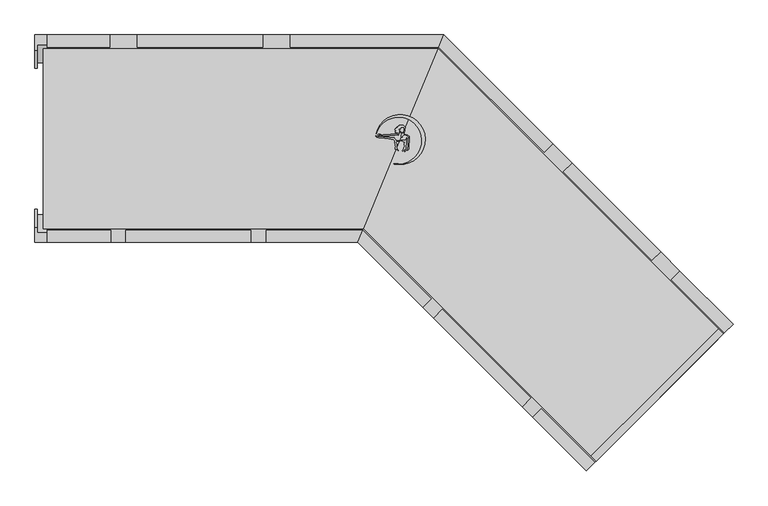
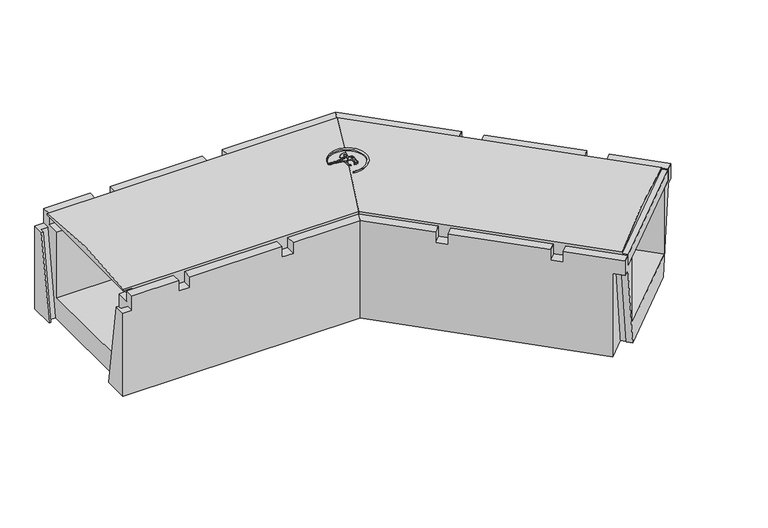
"""IFC4 building model written with IfcOpenShell, lengths in millimetres: cable carrier fitting geometry, Evotray type 2 horizontal bend : Evotray type 2 horizontal bend."""

from ifc_helpers import new_model, si_unit, point, frame, frame_2d, origin, place, context, project, spatial, polyline, circle_curve, ellipse_curve, trimmed, segment, composite_curve, outline, extrude, faceted_brep, source, transform, mapped, element, save
from ifc_brep_helpers import plane_surface, cylinder_surface, advanced_brep


def cable_carrier_fitting_f17cfeea(model_context):
    return source(origin(), model_context, "Body", "SolidModel", [
        extrude(outline(composite_curve([segment(polyline([(105.7066847, 7.5339815), (107.1323757, 6.7108584), (106.4234444, 6.3015567), (103.8585146, 6.3015567), (101.3990213, 3.8420634), (101.3990213, 2.2583954), (100.3415073, 1.9750354), (100.0101402, 3.2117144), (100.3323616, 4.414261), (100.3323616, 6.6410761), (101.7989023, 8.1076167), (101.3990213, 8.8002309), (100.3323616, 9.4160672), (99.4740897, 9.9115907), (98.4809661, 10.9047143), (98.4809661, 12.1547711), (99.2687603, 11.6999379), (100.3323616, 10.6363367), (101.3990213, 10.0205004), (103.7117859, 10.0205004), (104.3436846, 10.6523991), (104.3436846, 12.2608037), (104.7495416, 12.9637687), (104.9891116, 13.8578561), (104.9891116, 17.953291), (104.3436846, 18.598718), (100.3323616, 18.9496633), (99.5841975, 18.5177106), (99.1523489, 17.769727), (98.9299555, 16.9397435), (98.6572391, 15.393092), (98.1012174, 15.9491137), (97.5355616, 16.5147695), (96.5750267, 16.5147695), (96.1005873, 15.6930164), (96.1005873, 14.868111), (96.5026344, 14.1717449), (97.2303291, 13.4440503), (96.8336897, 11.9637721), (96.4961898, 10.7042051), (96.7989972, 8.9868987), (95.9982041, 8.8456973), (94.2677588, 9.3093687), (93.0210496, 9.8907188), (92.2677924, 10.2419684), (90.6683438, 9.9599424), (91.1359022, 10.7697774), (92.7927232, 11.3728109)]), True, "CONTINUOUS"), segment(trimmed(circle_curve(frame_2d((92.2265957, 11.1008716)), 0.6280537), [point((92.7927232, 11.3728109))], [point((92.0710135, 11.7093497))], True, "CARTESIAN"), True, "CONTINUOUS"), segment(polyline([(92.0710135, 11.7093497), (90.1239984, 11.7093497), (90.6821765, 12.2675278), (91.5329563, 12.5771863), (92.3513958, 12.875074)]), True, "CONTINUOUS"), segment(trimmed(circle_curve(frame_2d((91.6130709, 12.875074)), 0.7383249), [point((92.3513958, 12.875074))], [point((91.6130709, 13.6133989))], True, "CARTESIAN"), True, "CONTINUOUS"), segment(polyline([(91.6130709, 13.6133989), (89.9053233, 13.6133989), (89.5138017, 14.2915342), (91.3323938, 14.612201), (92.6287318, 15.0840295), (92.0079791, 15.7047821), (90.0447596, 15.7047821), (90.597342, 16.2573646), (91.6271747, 16.8519388), (92.3018991, 17.5266631), (93.0247164, 17.9439819), (93.9997284, 18.5069053)]), True, "CONTINUOUS"), segment(trimmed(circle_curve(frame_2d((93.788743, 18.8723428)), 0.4219708), [point((93.9997284, 18.5069053))], [point((93.5777576, 19.2377802))], True, "CARTESIAN"), True, "CONTINUOUS"), segment(polyline([(93.5777576, 19.2377802), (94.1951543, 19.8551768), (95.4978242, 20.3293099), (96.4928808, 20.9038061), (97.6244174, 21.1033266), (97.2705916, 22.0754549), (102.2705916, 22.0754549), (103.2847654, 21.6025379), (104.4066204, 21.3019378), (105.4210665, 20.716247), (106.529743, 19.6075706), (106.529743, 17.0415553), (106.0408258, 16.1947259), (106.0408258, 13.46269), (105.5517909, 12.4139512), (105.144989, 11.7093497), (105.144989, 9.8605854), (104.3436846, 9.3979521), (103.5104061, 9.2510226)]), True, "CONTINUOUS"), segment(trimmed(circle_curve(frame_2d((104.5633576, 8.9688851)), 1.0900956), [point((103.5104061, 9.2510226))], [point((104.2812201, 7.9159336))], True, "CARTESIAN"), True, "CONTINUOUS"), segment(polyline([(104.2812201, 7.9159336), (105.7066847, 7.5339815)]), True, "CONTINUOUS")], self_intersect=False)), frame((0.0, 0.0, 223.75), z_axis=(0.0, 0.0, 1.0), x_axis=(1.0, 0.0, 0.0)), (0.0, 0.0, 1.0), 22.5),
        extrude(outline(polyline([(110.2633939, 4.6789788), (108.34075, 5.7890178), (109.5299901, 6.1076737), (110.9048454, 5.6072673), (113.0309946, 4.3797345), (113.442644, 2.8434379), (113.442644, 0.0702487), (113.0242632, -2.3025073), (112.698126, -11.6418533), (112.698126, -14.4967502), (112.1384781, -17.6706715), (110.979454, -18.8296956), (110.0819654, -18.8296956), (110.7568395, -16.975494), (111.0657951, -15.2233198), (111.5802524, -12.3056877), (111.5802524, -1.066223), (112.021887, 1.4384114), (111.4794102, 3.4629626), (110.2633939, 4.6789788)])), frame((0.0, 0.0, 223.75), z_axis=(0.0, 0.0, 1.0), x_axis=(1.0, 0.0, 0.0)), (0.0, 0.0, 1.0), 22.5),
        extrude(outline(composite_curve([segment(polyline([(102.835145, -2.929042), (104.8173464, -2.929042), (106.2856108, -2.6701473), (107.5908928, -1.3648653), (108.7710016, 1.1658863), (109.2519536, -0.1555184), (108.6292459, -1.4909195), (107.9586384, -2.929042), (107.9586384, -8.8872378), (107.5302593, -11.3166965), (107.5302593, -19.7978385), (106.0816006, -21.2464971), (105.5088634, -20.6737599), (106.1875834, -18.9313898), (106.4457288, -17.4673747)]), True, "CONTINUOUS"), segment(trimmed(circle_curve(frame_2d((106.0310807, -17.4673747)), 0.414648), [point((106.4457288, -17.4673747))], [point((105.6164327, -17.4673747))], True, "CARTESIAN"), True, "CONTINUOUS"), segment(polyline([(105.6164327, -17.4673747), (104.8507439, -18.2330635), (103.5838974, -19.7428323), (102.9283884, -20.3983414), (102.1360672, -20.0288759), (104.3002871, -16.820288), (104.6061967, -15.0853881), (105.4482546, -13.2795892), (105.7054621, -11.8208929), (104.9169534, -10.4551557), (104.9169534, -7.6886085), (106.2401018, -5.8190518)]), True, "CONTINUOUS"), segment(trimmed(circle_curve(frame_2d((105.9029968, -5.5804712)), 0.4129897), [point((106.2401018, -5.8190518))], [point((105.6644162, -5.2433662))], True, "CARTESIAN"), True, "CONTINUOUS"), segment(polyline([(105.6644162, -5.2433662), (103.6606012, -4.8900395), (102.2167047, -4.2167395), (100.3967041, -3.3680593), (100.3967041, -2.499079), (102.835145, -2.929042)]), True, "CONTINUOUS")], self_intersect=False)), frame((0.0, 0.0, 223.75), z_axis=(0.0, 0.0, 1.0), x_axis=(1.0, 0.0, 0.0)), (0.0, 0.0, 1.0), 22.5),
        extrude(outline(composite_curve([segment(polyline([(60.4235491, 3.8801527), (62.159223, 3.0707947), (66.3456968, 3.0707947), (67.4164179, 3.3576935), (68.7429556, 3.3576935), (70.4640644, 3.0707947), (72.4703865, 2.5332023), (73.6235746, 2.2242065), (79.3154812, 2.2242065), (81.9319771, 1.7880518), (83.2595398, 1.4323324), (88.8737821, 1.4323324)]), True, "CONTINUOUS"), segment(trimmed(circle_curve(frame_2d((97.7273482, 4.337939)), 9.3181642), [point((88.8737821, 1.4323324))], [point((92.2280498, -3.184421))], True, "CARTESIAN"), True, "CONTINUOUS"), segment(polyline([(92.2280498, -3.184421), (95.2798347, -3.184421), (97.3144132, -3.0064185), (98.4534172, -2.4752922), (98.1958972, -3.4363696), (97.251803, -3.9814427), (96.2931161, -4.3303762), (93.058411, -4.2174178), (91.8697164, -4.6500673), (91.4607221, -5.5271586), (91.5358027, -6.3853337), (92.0146868, -7.2147854), (92.7352923, -7.9353909), (92.7352923, -9.6916034), (92.3699921, -10.6952577), (92.5142587, -12.3442325), (93.019351, -14.2292627), (93.1674701, -15.9222719), (95.5388052, -18.6501808), (95.3301282, -19.8336466), (92.7352923, -17.2388107), (91.7724607, -17.4968007), (90.3692845, -17.2493828), (90.6448449, -16.4922869), (90.6448449, -14.2182314), (90.8204487, -13.2223327), (90.6448449, -11.2151718), (90.2691825, -10.1830477), (90.2691825, -8.3578648), (89.8228468, -7.4006948), (89.8228468, -5.0229453), (89.5744065, -4.0957537), (89.1224362, -3.3129181), (88.6737244, -2.5357266), (88.059282, -1.9212842), (87.6254308, -0.9908871), (84.0244926, -0.8651396), (81.6803406, -0.4743831), (79.6477473, 0.0702487), (76.3061277, 0.4214671), (74.2265146, 0.4214671), (72.88428, 0.7811177), (71.360685, 1.1893638), (70.0174317, 1.8157331), (69.0230429, 1.8157331), (66.3716026, 1.8157331), (65.2593585, 1.5177082), (63.3960765, 1.713547), (61.9070017, 1.9617671), (60.2336941, 2.7420433), (59.2577678, 3.7179696), (58.6186847, 4.3570527), (58.6186847, 5.1439324), (60.4235491, 3.8801527)]), True, "CONTINUOUS")], self_intersect=False)), frame((0.0, 0.0, 223.75), z_axis=(0.0, 0.0, 1.0), x_axis=(1.0, 0.0, 0.0)), (0.0, 0.0, 1.0), 22.5),
        extrude(outline(composite_curve([segment(polyline([(62.9257817, 5.4241248), (63.949096, 4.833314), (62.2214356, 5.3529849), (61.8912891, 6.2705486), (62.7296135, 7.108873), (65.602432, 7.108873), (66.586869, 6.7111347), (67.6773578, 6.2705486), (68.4755514, 5.8097113), (69.7357815, 5.8097113), (70.5568066, 6.1051225), (71.4420588, 6.6162232), (77.8557638, 6.6162232), (78.7113384, 6.2705486), (79.7817404, 6.2705486), (80.7424606, 6.6162232), (81.9216173, 6.6162232), (82.6399563, 7.0309564), (88.0526116, 7.0309564), (88.8128922, 7.3045113), (90.0550502, 7.3045113), (90.6308188, 7.8802798), (92.5883822, 7.8802798), (93.8763833, 7.3598936), (94.8882997, 6.7756634), (95.6927408, 6.4506481)]), True, "CONTINUOUS"), segment(trimmed(circle_curve(frame_2d((95.2854084, 6.2860752)), 0.4393221), [point((95.6927408, 6.4506481))], [point((95.1208355, 5.8787428))], False, "CARTESIAN"), True, "CONTINUOUS"), segment(polyline([(95.1208355, 5.8787428), (94.1051068, 6.2891238), (92.793449, 6.2891238), (91.523019, 6.5131349), (90.7109946, 6.2209622), (89.5680207, 5.8097113), (86.2238227, 5.8097113), (85.4327494, 5.3529849), (81.8654291, 5.3529849), (80.9825668, 4.8432641), (70.9825668, 4.8432641), (68.3719027, 4.6148606), (64.683375, 6.1051225), (62.5326075, 6.1051225), (62.9257817, 5.4241248)]), True, "CONTINUOUS")], self_intersect=False)), frame((0.0, 0.0, 223.75), z_axis=(0.0, 0.0, 1.0), x_axis=(1.0, 0.0, 0.0)), (0.0, 0.0, 1.0), 22.5),
        extrude(outline(composite_curve([segment(trimmed(circle_curve(frame_2d((95.5060418, -3.2457098)), 38.3616107), [point((88.098205, -40.8852785))], [point((58.7945065, 7.8842657))], True, "CARTESIAN"), True, "CONTINUOUS"), segment(trimmed(circle_curve(frame_2d((98.6354425, -1.3653761)), 40.900563), [point((58.7945065, 7.8842657))], [point((88.098205, -40.8852785))], False, "CARTESIAN"), True, "CONTINUOUS")], self_intersect=False)), frame((0.0, 0.0, 223.75), z_axis=(0.0, 0.0, 1.0), x_axis=(1.0, 0.0, 0.0)), (0.0, 0.0, 1.0), 22.5),
        advanced_brep(
        [(419.2551404, -528.2679464, 205.0), (38.4871939, -147.5, 205.0), (160.6801948, 147.5, 205.0), (627.8516408, -319.671446, 205.0), (627.8516408, -319.671446, 230.0), (419.2551404, -528.2679464, 230.0), (160.6801948, 147.5, 234.0), (619.3663594, -311.1861646, 234.0), (619.3663594, -311.1861646, 230.0), (38.4871939, -147.5, 234.0), (410.769859, -519.782665, 230.0), (410.769859, -519.782665, 234.0)],
        [
            (0, 1),
            (1, 2),
            (2, 3),
            (3, 0),
            (3, 4),
            (4, 5),
            (5, 0),
            (2, 6),
            (6, 7),
            (7, 8),
            (8, 4),
            (1, 9),
            (9, 6, ellipse_curve(frame((99.5836944, 0.0, -671.2716938), z_axis=(-0.9238795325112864, 0.3826834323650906, 0.0), x_axis=(-0.3826834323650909, -0.9238795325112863, 0.0)), 992.7803042, 917.2094034)),
            (5, 10),
            (10, 11),
            (11, 9),
            (8, 10),
            (7, 11, circle_curve(frame((515.0681092, -415.4844148, -671.2716938), z_axis=(0.7071067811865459, -0.7071067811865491, 0.0), x_axis=(-0.7071067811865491, -0.7071067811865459, 0.0)), 917.2094034)),
        ],
        [
            plane_surface(frame((580.1219331, -367.4011537, 205.0), z_axis=(0.0, 0.0, -1.0), x_axis=(-0.707106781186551, -0.7071067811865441, 0.0))),
            plane_surface(frame((419.2551404, -528.2679464, 246.0), z_axis=(0.7071067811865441, -0.707106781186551, 0.0), x_axis=(0.0, 0.0, -1.0))),
            plane_surface(frame((627.8516408, -319.671446, 246.0), z_axis=(0.7071067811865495, 0.7071067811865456, 0.0), x_axis=(0.0, 0.0, -1.0))),
            plane_surface(frame((160.6801948, 147.5, 246.0), z_axis=(-0.9238795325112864, 0.3826834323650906, 0.0), x_axis=(0.0, 0.0, -1.0))),
            plane_surface(frame((38.4871939, -147.5, 246.0), z_axis=(-0.7071067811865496, -0.7071067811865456, 0.0), x_axis=(0.0, 0.0, -1.0))),
            plane_surface(frame((460.196623, -470.355901, 230.0), z_axis=(0.0, 0.0, 1.0), x_axis=(0.7071067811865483, 0.7071067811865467, 0.0))),
            plane_surface(frame((619.3663594, -311.1861646, 246.0), z_axis=(0.7071067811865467, -0.7071067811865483, 0.0), x_axis=(0.0, 0.0, -1.0))),
            cylinder_surface(frame((99.5836944, 0.0, -671.2716938), z_axis=(0.7071067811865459, -0.7071067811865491, 0.0), x_axis=(-0.7071067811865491, -0.7071067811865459, 0.0)), 917.2094034),
        ],
        [
            (0, [[1, 2, 3, 4]]),
            (1, [[-4, 5, 6, 7]]),
            (2, [[-3, 8, 9, 10, 11, -5]]),
            (3, [[-2, 12, 13, -8]]),
            (4, [[-1, -7, 14, 15, 16, -12]]),
            (5, [[17, -14, -6, -11]]),
            (6, [[-17, -10, 18, -15]]),
            (7, [[-9, -13, -16, -18]]),
        ],
    ),
        advanced_brep(
        [(160.6801948, 147.5, 205.0), (38.4871939, -147.5, 205.0), (-466.0, -147.5, 205.0), (-466.0, 147.5, 205.0), (38.4871939, -147.5, 230.0), (38.4871939, -147.5, 234.0), (-486.0, -147.5, 234.0), (-486.0, -147.5, 230.0), (-466.0, -147.5, 230.0), (160.6801948, 147.5, 230.0), (160.6801948, 147.5, 234.0), (-466.0, 147.5, 230.0), (-486.0, 147.5, 230.0), (-486.0, 147.5, 234.0)],
        [
            (0, 1),
            (1, 2),
            (2, 3),
            (3, 0),
            (1, 4),
            (4, 5),
            (5, 6),
            (6, 7),
            (7, 8),
            (8, 2),
            (0, 9),
            (9, 10),
            (10, 5, ellipse_curve(frame((99.5836944, 0.0, -671.2716938), z_axis=(0.9238795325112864, -0.38268343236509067, 0.0), x_axis=(0.38268343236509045, 0.9238795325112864, 0.0)), 992.7803042, 917.2094034)),
            (3, 11),
            (11, 12),
            (12, 13),
            (13, 10),
            (12, 7),
            (6, 13, circle_curve(frame((-486.0, 0.0, -671.2716938), z_axis=(-1.0, 0.0, 0.0), x_axis=(0.0, -1.0, 0.0)), 917.2094034)),
            (11, 8),
        ],
        [
            plane_surface(frame((-77.5, -147.5, 205.0), z_axis=(0.0, 0.0, -1.0), x_axis=(-1.0, 0.0, 0.0))),
            plane_surface(frame((-486.0, -147.5, 246.0), z_axis=(0.0, -1.0, 0.0), x_axis=(0.0, 0.0, -1.0))),
            plane_surface(frame((38.4871939, -147.5, 246.0), z_axis=(0.9238795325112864, -0.38268343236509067, 0.0), x_axis=(0.0, 0.0, -1.0))),
            plane_surface(frame((160.6801948, 147.5, 246.0), z_axis=(0.0, 1.0, 0.0), x_axis=(0.0, 0.0, -1.0))),
            plane_surface(frame((-486.0, 147.5, 246.0), z_axis=(-1.0, 0.0, 0.0), x_axis=(0.0, 0.0, -1.0))),
            plane_surface(frame((-486.0, 147.5, 230.0), z_axis=(0.0, 0.0, -1.0), x_axis=(-1.0, 0.0, 0.0))),
            plane_surface(frame((-466.0, -147.5, 230.0), z_axis=(-1.0, 0.0, 0.0), x_axis=(0.0, 0.0, -1.0))),
            cylinder_surface(frame((-486.0, 0.0, -671.2716938), z_axis=(1.0, 0.0, 0.0), x_axis=(0.0, -1.0, 0.0)), 917.2094034),
        ],
        [
            (0, [[1, 2, 3, 4]]),
            (1, [[5, 6, 7, 8, 9, 10, -2]]),
            (2, [[-1, 11, 12, 13, -6, -5]]),
            (3, [[-11, -4, 14, 15, 16, 17, -12]]),
            (4, [[18, -8, 19, -16]]),
            (5, [[20, -9, -18, -15]]),
            (6, [[-20, -14, -3, -10]]),
            (7, [[-7, -13, -17, -19]]),
        ],
    ),
        faceted_brep([(37.45166, -150.0, 230.0), (29.1673888, -170.0, 230.0), (135.3517677, -276.1843789, 230.0), (149.4939033, -262.0422433, 230.0), (170.0, 170.0, 230.0), (161.7157288, 150.0, 230.0), (334.0487732, -22.3330445, 230.0), (348.1909089, -8.1909089, 230.0), (629.6194078, -317.903679, 230.0), (643.7615434, -303.7615434, 230.0), (556.7874093, -216.7874093, 230.0), (542.6452737, -230.9295449, 230.0), (403.3452378, -544.177849, 230.0), (417.4873734, -530.0357134, 230.0), (329.8061325, -442.3544725, 230.0), (315.6639969, -456.4966081, 230.0), (524.9676042, -184.9676042, 230.0), (380.010714, -40.010714, 230.0), (365.8685784, -54.1528496, 230.0), (510.8254685, -199.1097398, 230.0), (153.0294373, -293.8620485, 230.0), (297.9863274, -438.8189386, 230.0), (312.128463, -424.676803, 230.0), (167.1715729, -279.7199128, 230.0), (29.1673888, -170.0, 0.0), (170.0, 170.0, 0.0), (626.0838739, -286.0838739, 0.0), (585.7787873, -326.3889604, 0.0), (594.2640687, -334.8742418, 0.0), (595.961125, -333.1771855, 0.0), (605.1535131, -342.3695736, 0.0), (441.953268, -505.5698187, 0.0), (432.7608799, -496.3774306, 0.0), (434.4579362, -494.6803743, 0.0), (425.9726548, -486.1950929, 0.0), (385.6675683, -526.5001795, 0.0), (348.1909089, -8.1909089, 205.0), (380.010714, -40.010714, 205.0), (524.9676042, -184.9676042, 205.0), (556.7874093, -216.7874093, 205.0), (643.7615434, -303.7615434, 196.0), (626.0838739, -286.0838739, 196.0), (37.45166, -150.0, 205.0), (49.8780669, -120.0, 205.0), (49.8780669, -120.0, 50.0), (149.2893219, 120.0, 50.0), (149.2893219, 120.0, 205.0), (161.7157288, 150.0, 205.0), (385.6675683, -526.5001795, 196.0), (403.3452378, -544.177849, 196.0), (315.6639969, -456.4966081, 205.0), (297.9863274, -438.8189386, 205.0), (153.0294373, -293.8620485, 205.0), (135.3517677, -276.1843789, 205.0), (417.4873734, -530.0357134, 196.0), (629.6194078, -317.903679, 196.0), (629.6194078, -317.903679, 205.0), (608.4062043, -339.1168825, 205.0), (608.4062043, -339.1168825, 50.0), (438.7005769, -508.8225099, 50.0), (438.7005769, -508.8225099, 205.0), (417.4873734, -530.0357134, 205.0), (408.2949853, -520.8433252, 196.0), (401.5067602, -510.6609876, 196.0), (409.9920415, -519.1462689, 196.0), (620.4270196, -308.7112909, 196.0), (618.7299633, -310.4083471, 196.0), (610.244682, -301.9230658, 196.0), (149.4939033, -262.0422433, 205.0), (167.1715729, -279.7199128, 205.0), (312.128463, -424.676803, 205.0), (329.8061325, -442.3544725, 205.0), (542.6452737, -230.9295449, 205.0), (510.8254685, -199.1097398, 205.0), (365.8685784, -54.1528496, 205.0), (334.0487732, -22.3330445, 205.0)], [[[0, 1, 2, 3]], [[4, 5, 6, 7]], [[8, 9, 10, 11]], [[12, 13, 14, 15]], [[16, 17, 18, 19]], [[20, 21, 22, 23]], [[24, 25, 26, 27, 28, 29, 30, 31, 32, 33, 34, 35]], [[25, 4, 7, 36, 37, 17, 16, 38, 39, 10, 9, 40, 41, 26]], [[25, 24, 1, 0, 42, 43, 44, 45, 46, 47, 5, 4]], [[1, 24, 35, 48, 49, 12, 15, 50, 51, 21, 20, 52, 53, 2]], [[12, 49, 54, 31, 30, 55, 40, 9, 8, 56, 57, 58, 59, 60, 61, 13]], [[62, 54, 49, 48, 63, 64]], [[54, 62, 32, 31]], [[55, 65, 66, 67, 41, 40]], [[65, 55, 30, 29]], [[64, 33, 32, 62]], [[64, 63, 34, 33]], [[63, 48, 35, 34]], [[28, 66, 65, 29]], [[67, 66, 28, 27]], [[41, 67, 27, 26]], [[43, 42, 68, 53, 52, 69, 70, 51, 50, 71, 61, 60]], [[47, 46, 57, 56, 72, 39, 38, 73, 74, 37, 36, 75]], [[19, 18, 74, 73]], [[5, 47, 75, 6]], [[56, 8, 11, 72]], [[23, 22, 70, 69]], [[42, 0, 3, 68]], [[13, 61, 71, 14]], [[58, 45, 44, 59]], [[45, 58, 57, 46]], [[59, 44, 43, 60]], [[51, 70, 22, 21]], [[71, 50, 15, 14]], [[75, 36, 7, 6]], [[37, 74, 18, 17]], [[73, 38, 16, 19]], [[39, 72, 11, 10]], [[53, 68, 3, 2]], [[69, 52, 20, 23]]]),
        faceted_brep([(29.1673888, -170.0, 230.0), (37.45166, -150.0, 230.0), (-121.0, -150.0, 230.0), (-121.0, -170.0, 230.0), (161.7157288, 150.0, 230.0), (170.0, 170.0, 230.0), (-82.0, 170.0, 230.0), (-82.0, 150.0, 230.0), (-127.0, 170.0, 230.0), (-332.0, 170.0, 230.0), (-332.0, 150.0, 230.0), (-127.0, 150.0, 230.0), (-376.0, -170.0, 230.0), (-376.0, -150.0, 230.0), (-480.0, -150.0, 230.0), (-480.0, -170.0, 230.0), (-377.0, 150.0, 230.0), (-377.0, 170.0, 230.0), (-480.0, 170.0, 230.0), (-480.0, 150.0, 230.0), (-351.0, -170.0, 230.0), (-146.0, -170.0, 230.0), (-146.0, -150.0, 230.0), (-351.0, -150.0, 230.0), (-500.0, 170.0, 0.0), (170.0, 170.0, 0.0), (29.1673888, -170.0, 0.0), (-500.0, -170.0, 0.0), (-500.0, -115.5, 0.0), (-496.0, -115.5, 0.0), (-496.0, -124.6, 0.0), (-480.0, -124.6, 0.0), (-480.0, 124.6, 0.0), (-496.0, 124.6, 0.0), (-496.0, 115.4, 0.0), (-500.0, 115.4, 0.0), (-500.0, 170.0, 196.0), (-500.0, 144.8852174, 196.0), (-500.0, -170.0, 196.0), (-500.0, -144.9, 196.0), (-121.0, -170.0, 205.0), (-146.0, -170.0, 205.0), (-351.0, -170.0, 205.0), (-376.0, -170.0, 205.0), (-480.0, -170.0, 196.0), (161.7157288, 150.0, 205.0), (149.2893219, 120.0, 205.0), (149.2893219, 120.0, 50.0), (49.8780669, -120.0, 50.0), (49.8780669, -120.0, 205.0), (37.45166, -150.0, 205.0), (-480.0, 170.0, 196.0), (-377.0, 170.0, 205.0), (-332.0, 170.0, 205.0), (-127.0, 170.0, 205.0), (-82.0, 170.0, 205.0), (-82.0, 150.0, 205.0), (-127.0, 150.0, 205.0), (-332.0, 150.0, 205.0), (-377.0, 150.0, 205.0), (-480.0, 150.0, 205.0), (-480.0, 147.5, 205.0), (-480.0, 120.0, 205.0), (-466.0, 120.0, 205.0), (-466.0, -120.0, 205.0), (-480.0, -120.0, 205.0), (-480.0, -147.5, 205.0), (-480.0, -150.0, 205.0), (-376.0, -150.0, 205.0), (-351.0, -150.0, 205.0), (-146.0, -150.0, 205.0), (-121.0, -150.0, 205.0), (-480.0, 120.0, 50.0), (-480.0, -120.0, 50.0), (-480.0, -154.0852174, 196.0), (-496.0, -154.0852174, 196.0), (-496.0, -144.9, 196.0), (-496.0, 144.8852174, 196.0), (-496.0, 154.0, 196.0), (-480.0, 154.0, 196.0)], [[[0, 1, 2, 3]], [[4, 5, 6, 7]], [[8, 9, 10, 11]], [[12, 13, 14, 15]], [[16, 17, 18, 19]], [[20, 21, 22, 23]], [[24, 25, 26, 27, 28, 29, 30, 31, 32, 33, 34, 35]], [[36, 24, 35, 37]], [[27, 38, 39, 28]], [[27, 26, 0, 3, 40, 41, 21, 20, 42, 43, 12, 15, 44, 38]], [[26, 25, 5, 4, 45, 46, 47, 48, 49, 50, 1, 0]], [[25, 24, 36, 51, 18, 17, 52, 53, 9, 8, 54, 55, 6, 5]], [[46, 45, 56, 55, 54, 57, 58, 53, 52, 59, 60, 61, 62, 63]], [[50, 49, 64, 65, 66, 67, 68, 43, 42, 69, 70, 41, 40, 71]], [[23, 22, 70, 69]], [[1, 50, 71, 2]], [[13, 68, 67, 14]], [[11, 10, 58, 57]], [[45, 4, 7, 56]], [[59, 16, 19, 60]], [[48, 47, 72, 73]], [[47, 46, 63, 62, 72]], [[49, 48, 73, 65, 64]], [[43, 68, 13, 12]], [[69, 42, 20, 23]], [[59, 52, 17, 16]], [[53, 58, 10, 9]], [[57, 54, 8, 11]], [[55, 56, 7, 6]], [[38, 44, 74, 75, 76, 39]], [[51, 36, 37, 77, 78, 79]], [[44, 15, 14, 67, 66, 65, 73, 72, 62, 61, 60, 19, 18, 51, 79, 32, 31, 74]], [[35, 34, 77, 37]], [[29, 28, 39, 76]], [[32, 79, 78, 33]], [[33, 78, 77, 34]], [[75, 30, 29, 76]], [[74, 31, 30, 75]], [[41, 70, 22, 21]], [[71, 40, 3, 2]]]),
    ])


if __name__ == "__main__":
    model = new_model("IFC4")
    model_context = context("Model", 3, world=origin())
    ifc_project = project(units=[si_unit("LENGTHUNIT", "METRE", prefix="MILLI")], contexts=[model_context])
    site = spatial("IfcSite", under=ifc_project)
    building = spatial("IfcBuilding", under=site)
    placement = place(None, origin())
    cable_carrier_fitting_shape = cable_carrier_fitting_f17cfeea(model_context)
    element("IfcCableCarrierFitting", 1, ObjectType="Evotray type 2 horizontal bend : Evotray type 2 horizontal bend", at=placement, inside=building, context=model_context, shape_type="MappedRepresentation", body=[
        mapped(cable_carrier_fitting_shape, transform((0.0, 0.0, 0.0), x_axis=(1.0, 0.0, 0.0), y_axis=(0.0, 1.0, 0.0), z_axis=(0.0, 0.0, 1.0))),
    ])
    save(model, "model.ifc")
